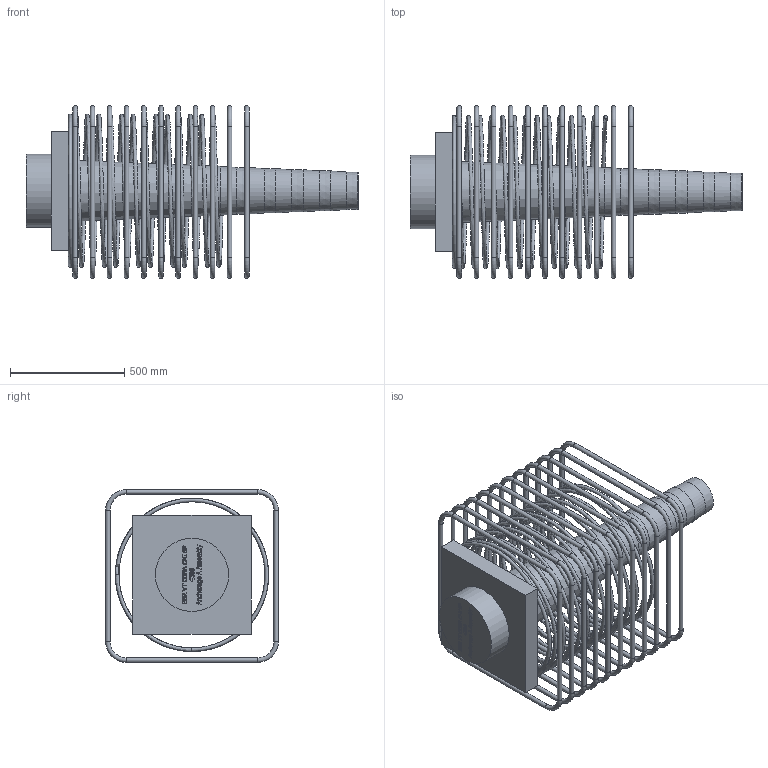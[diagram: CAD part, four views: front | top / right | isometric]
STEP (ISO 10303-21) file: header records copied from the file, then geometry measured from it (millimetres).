
FILE_DESCRIPTION(/* description */ (''),/* implementation_level */ '2;1');
FILE_NAME(/* name */ 'Z:\04 Publications\05 Give-out\BBR\6_3D_Models\BBR VT CONA CMI\BBR VT CONA CMI SP\04306\BBR VT CONA CMI SP 4306_Anchorage A Assembly_CS-34,28.stp',/* time_stamp */ '2017-05-09T10:28:19+02:00',/* author */ ('IP'),/* organization */ (''),/* preprocessor_version */ 'ST-DEVELOPER v16.1',/* originating_system */ 'Autodesk Inventor 2016',/* authorisation */ '');
FILE_SCHEMA (('AUTOMOTIVE_DESIGN { 1 0 10303 214 3 1 1 }'));
Length unit declared in the file: millimetre
Products named in the file (1): BBR VT CONA CMI SP 4306_Anchorage A Assembly_CS-34,28
Bounding box: 1451.1 x 755 x 755 mm (x, y, z)
Volume: 91812791.5 mm3; surface area: 5011450.8 mm2
Topology: 13 solids, 13 shells, 727 faces, 1903 edges, 1236 vertices
Faces by surface type: plane 324, bspline 301, torus 51, cylinder 45, cone 6
Full cylindrical faces by diameter (mm): 20 x44, 320 x1
Entity records: 30054 total; most frequent: CARTESIAN_POINT 13799, ORIENTED_EDGE 3604, DIRECTION 2160, EDGE_CURVE 1799, VERTEX_POINT 1234, LINE 1086, VECTOR 1086, EDGE_LOOP 890
